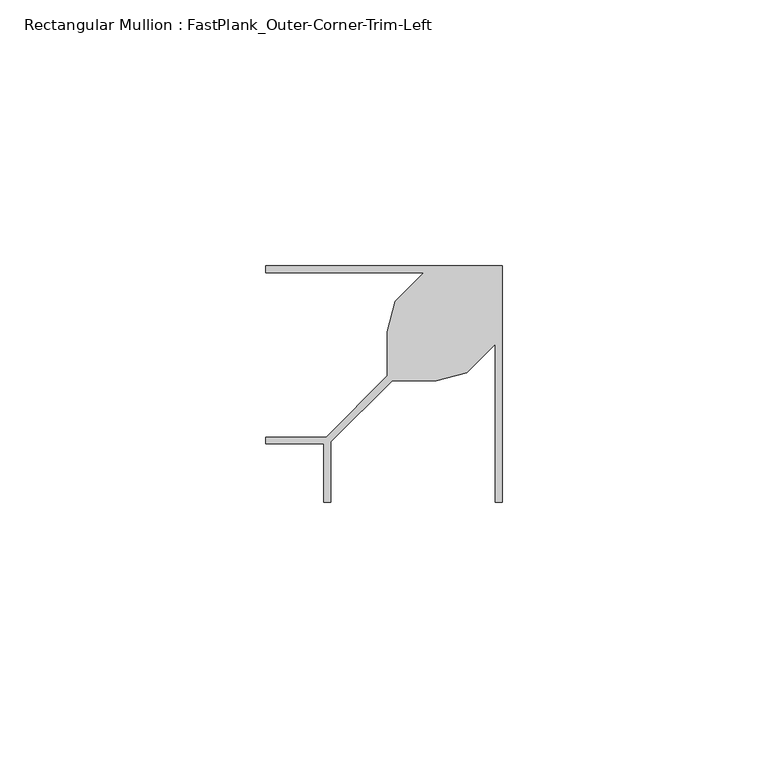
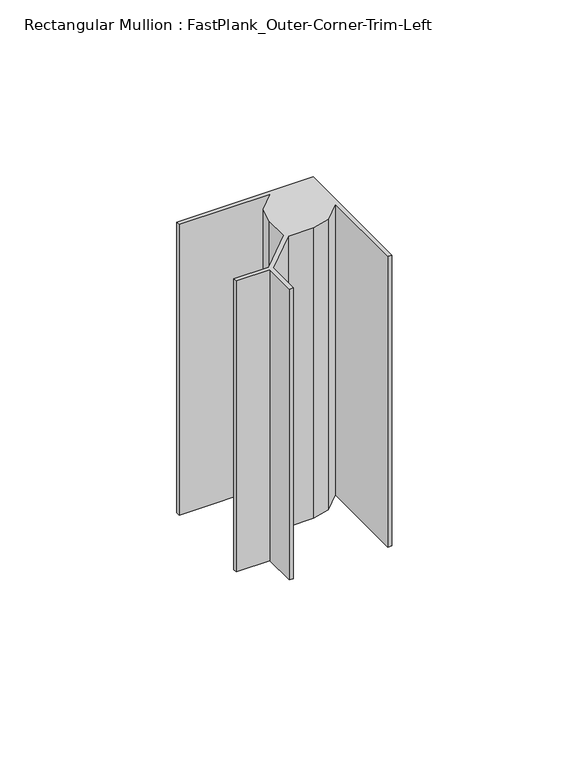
"""IFC4 building model written with IfcOpenShell, lengths in millimetres: member geometry, Rectangular Mullion : FastPlank_Outer-Corner-Trim-Left."""

import ifcopenshell
import ifcopenshell.guid

model = None  # the IFC model being written
_history = None  # IfcOwnerHistory: only IFC2X3 demands one
_inside = {}  # id of a spatial element -> (the spatial element, [elements in it])
_under = {}  # id of a project, library or spatial element -> (it, [spatial elements below it])
_declared = {}  # id of a project -> (the project, [libraries it declares])
_typed = {}  # id of a type object -> (the type object, [elements of that type])
_made_of = {}  # id of a material, layer set ... -> (it, [elements and type objects made of it])


def new_model(schema):
    """Start an empty IFC model of exactly this schema.

    Asked for "IFC4X3", IfcOpenShell would pick the latest addendum, in which some entities
    have other attributes; the version numbers below select the first issue.
    IFC2X3 requires an IfcOwnerHistory on every rooted entity: one is made here for all.
    """
    global model, _history
    if schema == "IFC4X3":
        model = ifcopenshell.file(schema_version=(4, 3, 0, 0))
    else:
        model = ifcopenshell.file(schema=schema)
    _inside.clear()
    _under.clear()
    _declared.clear()
    _typed.clear()
    _made_of.clear()
    _history = None
    if model.schema == "IFC2X3":
        org = make("IfcOrganization", Name="unknown")
        user = make(
            "IfcPersonAndOrganization",
            ThePerson=make("IfcPerson", FamilyName="unknown"),
            TheOrganization=org,
        )
        app = make(
            "IfcApplication",
            ApplicationDeveloper=org,
            Version="unknown",
            ApplicationFullName="unknown",
            ApplicationIdentifier="unknown",
        )
        _history = make(
            "IfcOwnerHistory",
            OwningUser=user,
            OwningApplication=app,
            ChangeAction="ADDED",
            CreationDate=0,
        )
    return model


def make(cls, **values):
    """One entity of the class cls with the attributes given. An attribute that is None is left unset."""
    return model.create_entity(
        cls, **{name: value for name, value in values.items() if value is not None}
    )


def rooted(cls, **values):
    """An entity with a GlobalId (a new one), such as an element, a storey or a relation."""
    return make(cls, GlobalId=ifcopenshell.guid.new(), OwnerHistory=_history, **values)


def si_unit(unit_type, name, prefix=None):
    """IfcSIUnit, for example si_unit("LENGTHUNIT", "METRE", prefix="MILLI")."""
    return make("IfcSIUnit", UnitType=unit_type, Prefix=prefix, Name=name)


def assignment(units):
    """IfcUnitAssignment: the units of a project."""
    return None if units is None else make("IfcUnitAssignment", Units=units)


def point(xyz):
    """IfcCartesianPoint."""
    return None if xyz is None else make("IfcCartesianPoint", Coordinates=xyz)


def direction(xyz):
    """IfcDirection."""
    return None if xyz is None else make("IfcDirection", DirectionRatios=xyz)


def frame(location, z_axis=None, x_axis=None):
    """IfcAxis2Placement3D, a coordinate frame: its origin and axes. An axis left out is left unset."""
    return make(
        "IfcAxis2Placement3D",
        Location=point(location),
        Axis=direction(z_axis),
        RefDirection=direction(x_axis),
    )


def origin():
    """The frame at (0, 0, 0) with its axes left unset."""
    return frame((0.0, 0.0, 0.0))


def place(relative_to, where):
    """IfcLocalPlacement: puts the frame where relative to a parent placement (None: the world)."""
    return make(
        "IfcLocalPlacement", PlacementRelTo=relative_to, RelativePlacement=where
    )


def context(
    kind, dimensions, precision=None, world=None, true_north=None, identifier=None
):
    """IfcGeometricRepresentationContext, for example the 3D "Model" context."""
    return make(
        "IfcGeometricRepresentationContext",
        ContextIdentifier=identifier,
        ContextType=kind,
        CoordinateSpaceDimension=dimensions,
        Precision=precision,
        WorldCoordinateSystem=world,
        TrueNorth=true_north,
    )


def project(units=None, contexts=None):
    """IfcProject with its units and contexts."""
    return rooted(
        "IfcProject",
        Name="project",
        RepresentationContexts=contexts,
        UnitsInContext=assignment(units),
    )


def spatial(cls, under=None, at=None, **own):
    """A site, building, storey or space (cls), placed at a placement, below another one or the project."""
    s = rooted(cls, ObjectPlacement=at, **own)
    if under is not None:
        _under.setdefault(under.id(), (under, []))[1].append(s)
    return s


def polyline(points):
    """IfcPolyline through the points."""
    return make("IfcPolyline", Points=[point(p) for p in points])


def outline(outer, holes=None, kind="AREA"):
    """IfcArbitraryClosedProfileDef: a profile drawn as a closed curve; with holes, ...WithVoids."""
    if holes is None:
        return make("IfcArbitraryClosedProfileDef", ProfileType=kind, OuterCurve=outer)
    return make(
        "IfcArbitraryProfileDefWithVoids",
        ProfileType=kind,
        OuterCurve=outer,
        InnerCurves=holes,
    )


def extrude(swept, where, along, depth):
    """IfcExtrudedAreaSolid: the profile swept, set in the frame where, extruded along a direction by depth."""
    return make(
        "IfcExtrudedAreaSolid",
        SweptArea=swept,
        Position=where,
        ExtrudedDirection=direction(along),
        Depth=depth,
    )


def shape(context_of_items, identifier, shape_type, items):
    """IfcShapeRepresentation: the items that make up one representation, for example the "Body"."""
    return make(
        "IfcShapeRepresentation",
        ContextOfItems=context_of_items,
        RepresentationIdentifier=identifier,
        RepresentationType=shape_type,
        Items=items,
    )


def source(mapping_origin, context_of_items, identifier, shape_type, items):
    """IfcRepresentationMap: a shape defined once, which mapped items show again and again."""
    return make(
        "IfcRepresentationMap",
        MappingOrigin=mapping_origin,
        MappedRepresentation=shape(context_of_items, identifier, shape_type, items),
    )


def transform(
    local_origin,
    x_axis=None,
    y_axis=None,
    z_axis=None,
    scale=None,
    scale2=None,
    scale3=None,
    uniform=True,
):
    """IfcCartesianTransformationOperator3D, or its non-uniform kind. x_axis, y_axis, z_axis: its Axis1, 2, 3."""
    if uniform:
        return make(
            "IfcCartesianTransformationOperator3D",
            Axis1=direction(x_axis),
            Axis2=direction(y_axis),
            LocalOrigin=point(local_origin),
            Scale=scale,
            Axis3=direction(z_axis),
        )
    return make(
        "IfcCartesianTransformationOperator3DnonUniform",
        Axis1=direction(x_axis),
        Axis2=direction(y_axis),
        LocalOrigin=point(local_origin),
        Scale=scale,
        Axis3=direction(z_axis),
        Scale2=scale2,
        Scale3=scale3,
    )


def mapped(mapping_source, mapping_target):
    """IfcMappedItem: shows the shape of a source again, moved by a transform."""
    return make(
        "IfcMappedItem", MappingSource=mapping_source, MappingTarget=mapping_target
    )


def made_of(thing, what):
    """Note that an element or type object is made of a material, layer set ...; save() writes the relation."""
    if what is not None:
        _made_of.setdefault(what.id(), (what, []))[1].append(thing)
    return thing


def element(
    cls,
    number,
    at=None,
    inside=None,
    cuts=None,
    type_object=None,
    material=None,
    context=None,
    identifier="Body",
    shape_type=None,
    held_by="IfcProductDefinitionShape",
    body=None,
    shapes=None,
    **own,
):
    """One element of the class cls, such as IfcWall. Its Tag is "e" and its number.

    at: its placement. inside: the storey or other place that contains it. cuts: it is an
    opening in that element (IfcRelVoidsElement). A single representation is given by context,
    identifier, shape_type and body (its items); several are given by shapes. held_by: the class
    of the entity that holds the representations. save() writes the other relations.
    """
    e = rooted(cls, Tag="e%d" % number, ObjectPlacement=at, **own)
    if body is not None:
        shapes = [shape(context, identifier, shape_type, body)]
    if shapes is not None:
        e.Representation = make(held_by, Representations=shapes)
    if inside is not None:
        _inside.setdefault(inside.id(), (inside, []))[1].append(e)
    if cuts is not None:
        rooted(
            "IfcRelVoidsElement", RelatingBuildingElement=cuts, RelatedOpeningElement=e
        )
    if type_object is not None:
        _typed.setdefault(type_object.id(), (type_object, []))[1].append(e)
    return made_of(e, material)


def aggregate(whole, parts):
    """IfcRelAggregates: a whole, such as a stair, and the parts it consists of."""
    return rooted("IfcRelAggregates", RelatingObject=whole, RelatedObjects=parts)


def save(model, path):
    """Write the relations noted so far, then the file.

    IfcRelAggregates (storeys below a building ...), IfcRelContainedInSpatialStructure (elements
    in a storey), IfcRelDefinesByType, IfcRelAssociatesMaterial and IfcRelDeclares: one each for
    every whole, place, type object, material and project.
    """
    for whole, parts in _under.values():
        aggregate(whole, parts)
    for where, things in _inside.values():
        rooted(
            "IfcRelContainedInSpatialStructure",
            RelatedElements=things,
            RelatingStructure=where,
        )
    for kind, things in _typed.values():
        rooted("IfcRelDefinesByType", RelatedObjects=things, RelatingType=kind)
    for what, things in _made_of.values():
        rooted("IfcRelAssociatesMaterial", RelatedObjects=things, RelatingMaterial=what)
    for by, libraries in _declared.values():
        rooted("IfcRelDeclares", RelatingContext=by, RelatedDefinitions=libraries)
    model.write(path)


def rectangular_mullion_fastplank_outer_corner_trim_left_252256c0(model_context):
    return source(origin(), model_context, "Body", "SweptSolid", [
        extrude(outline(polyline([(0.0, -22.7926044), (-1.2999974, -22.7926044), (-1.2999974, 6.9388362), (-6.6744694, 1.5643642), (-12.417962, 0.0254), (-20.7035048, 0.0254), (-32.1999356, -11.4710308), (-32.1999356, -22.7926044), (-33.499933, -22.7926044), (-33.499933, -11.8517912), (-44.4407461, -11.8517912), (-44.4407461, -10.5517938), (-33.1191726, -10.5517938), (-21.6227418, 0.944637), (-21.6227418, 9.2301797), (-20.0837776, 14.9736723), (-14.7093055, 20.3481444), (-44.4407461, 20.3481444), (-44.4407461, 21.6481418), (0.0, 21.6481418), (0.0, -22.7926044)])), frame((0.0, 0.0, -100.2999811), z_axis=(0.0, 0.0, 1.0), x_axis=(1.0, 0.0, 0.0)), (0.0, 0.0, 1.0), 100.2999811),
    ])


if __name__ == "__main__":
    model = new_model("IFC4")
    model_context = context("Model", 3, world=origin())
    ifc_project = project(units=[si_unit("LENGTHUNIT", "METRE", prefix="MILLI")], contexts=[model_context])
    site = spatial("IfcSite", under=ifc_project)
    building = spatial("IfcBuilding", under=site)
    placement = place(None, origin())
    rectangular_mullion_fastplank_outer_corner_trim_left_shape = rectangular_mullion_fastplank_outer_corner_trim_left_252256c0(model_context)
    element("IfcMember", 1, ObjectType="Rectangular Mullion : FastPlank_Outer-Corner-Trim-Left", at=placement, inside=building, context=model_context, shape_type="MappedRepresentation", body=[
        mapped(rectangular_mullion_fastplank_outer_corner_trim_left_shape, transform((0.0, 0.0, 0.0), x_axis=(1.0, 0.0, 0.0), y_axis=(0.0, 1.0, 0.0), z_axis=(0.0, 0.0, 1.0))),
    ])
    save(model, "model.ifc")
